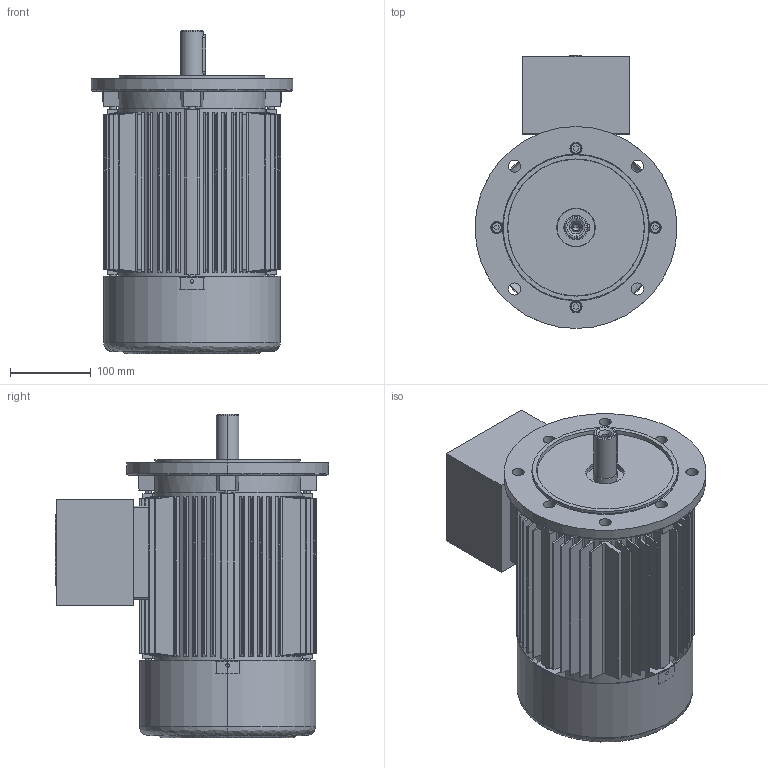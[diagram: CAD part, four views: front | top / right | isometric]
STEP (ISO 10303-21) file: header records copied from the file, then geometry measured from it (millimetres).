
FILE_DESCRIPTION (( 'STEP AP214' ), '1' );
FILE_NAME ('20.18394-B 5AT 112 B5 Exd.STEP', '2018-05-08T07:44:45', ( '' ), ( '' ), 'SwSTEP 2.0', 'SolidWorks 2017', '' );
FILE_SCHEMA (( 'AUTOMOTIVE_DESIGN' ));
Length unit declared in the file: millimetre
Products named in the file (1): 20.18394-B 5AT 112 B5 Exd
Bounding box: 249.9 x 337.95 x 399.8 mm (x, y, z)
Volume: 5952621.4 mm3; surface area: 1103866 mm2
Topology: 11 solids, 12 shells, 934 faces, 2335 edges, 1523 vertices
Faces by surface type: cylinder 383, plane 366, cone 153, torus 16, bspline 16
Entity records: 39371 total; most frequent: CARTESIAN_POINT 10857, ORIENTED_EDGE 4638, DIRECTION 4410, EDGE_CURVE 2319, AXIS2_PLACEMENT_3D 1672, VERTEX_POINT 1523, EDGE_LOOP 1084, VECTOR 1066
